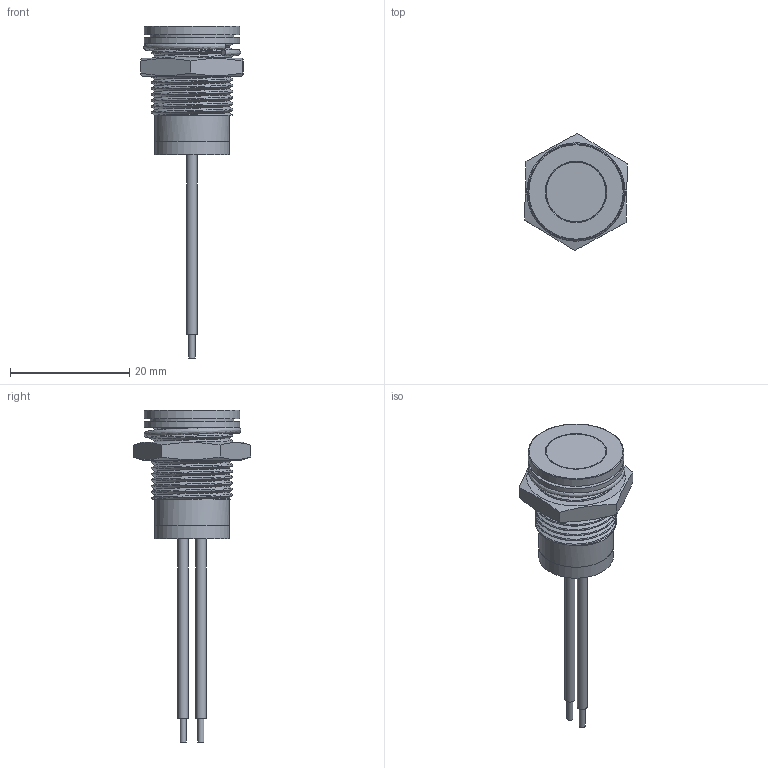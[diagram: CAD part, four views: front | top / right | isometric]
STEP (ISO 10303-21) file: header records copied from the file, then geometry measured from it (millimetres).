
FILE_DESCRIPTION( ( 'Unknown' ), '1' );
FILE_NAME( 'D:/My Documents/Q series 3D files/Q14F7CXXR.stp', 'Unknown', ( 'Unknown' ), ( 'Unknown' ), 'PSStep 15.0.49', 'Unknown', ' ' );
FILE_SCHEMA( ( 'AUTOMOTIVE_DESIGN { 1 0 10303 214 1 1 1 1 }' ) );
Length unit declared in the file: millimetre
Products named in the file (9): Assem1; 13-0037; 21-0027; 34-0087; 14-0170; 10mm-flat led-cut; 26-0049; wire-red; wire-black
Assembly tree (8 placements, depth 2):
  Assem1
    13-0037
    21-0027
    34-0087
    14-0170
    10mm-flat led-cut
    26-0049
    wire-red
    wire-black
Bounding box: 17.23 x 19.62 x 55.6 mm (x, y, z)
Volume: 2833 mm3; surface area: 4725.9 mm2
Topology: 8 solids, 8 shells, 129 faces, 300 edges, 199 vertices
Faces by surface type: plane 62, cylinder 41, cone 14, bspline 8, torus 4
Full cylindrical faces by diameter (mm): 1 x4, 1.7 x2, 1.75 x2, 10 x1, 10.1 x1, 11.4 x1, 11.5 x1, 12.5 x13, 13.8 x1, 14 x1, 16 x2
Entity records: 15754 total; most frequent: CARTESIAN_POINT 12286, DIRECTION 499, ORIENTED_EDGE 440, EDGE_CURVE 220, AXIS2_PLACEMENT_3D 208, EDGE_LOOP 166, VERTEX_POINT 160, FACE_OUTER_BOUND 139
